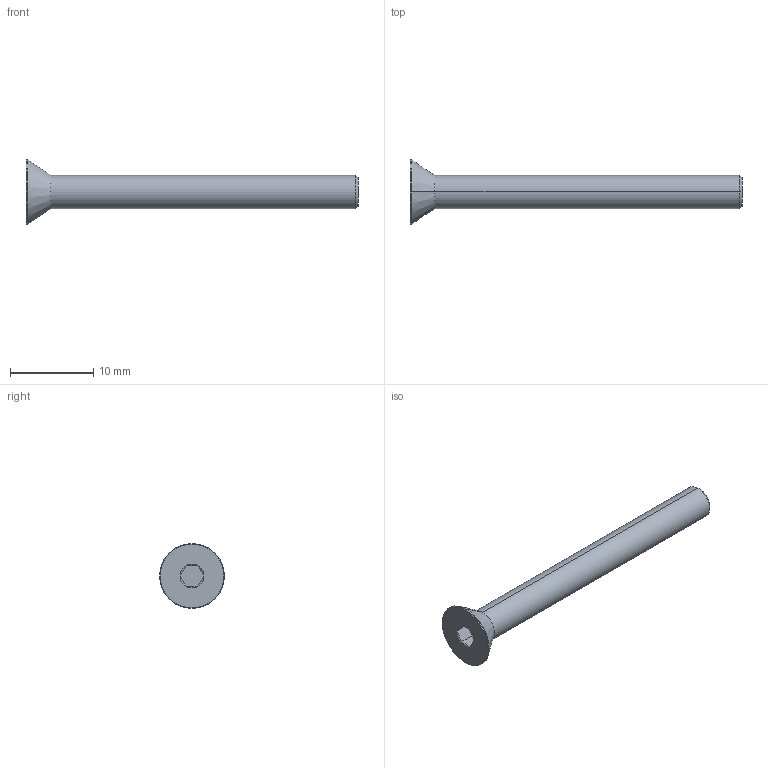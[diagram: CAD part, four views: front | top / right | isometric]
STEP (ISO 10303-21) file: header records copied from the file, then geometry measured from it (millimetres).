
FILE_DESCRIPTION (( 'STEP AP203' ), '1' );
FILE_NAME ('LGDB-304-M4x40.STEP', '2026-08-12T01:22:22', ( '' ), ( '' ), 'SwSTEP 2.0', 'SolidWorks 2020', '' );
FILE_SCHEMA (( 'CONFIG_CONTROL_DESIGN' ));
Length unit declared in the file: millimetre
Products named in the file (1): LGDB-304-M4x40
Bounding box: 40 x 7.8 x 7.8 mm (x, y, z)
Volume: 542.3 mm3; surface area: 606.9 mm2
Topology: 1 solids, 1 shells, 28 faces, 53 edges, 28 vertices
Faces by surface type: cone 11, plane 9, torus 4, cylinder 4
Entity records: 792 total; most frequent: CARTESIAN_POINT 153, DIRECTION 129, ORIENTED_EDGE 106, AXIS2_PLACEMENT_3D 54, EDGE_CURVE 53, EDGE_LOOP 29, FACE_OUTER_BOUND 28, VERTEX_POINT 28
